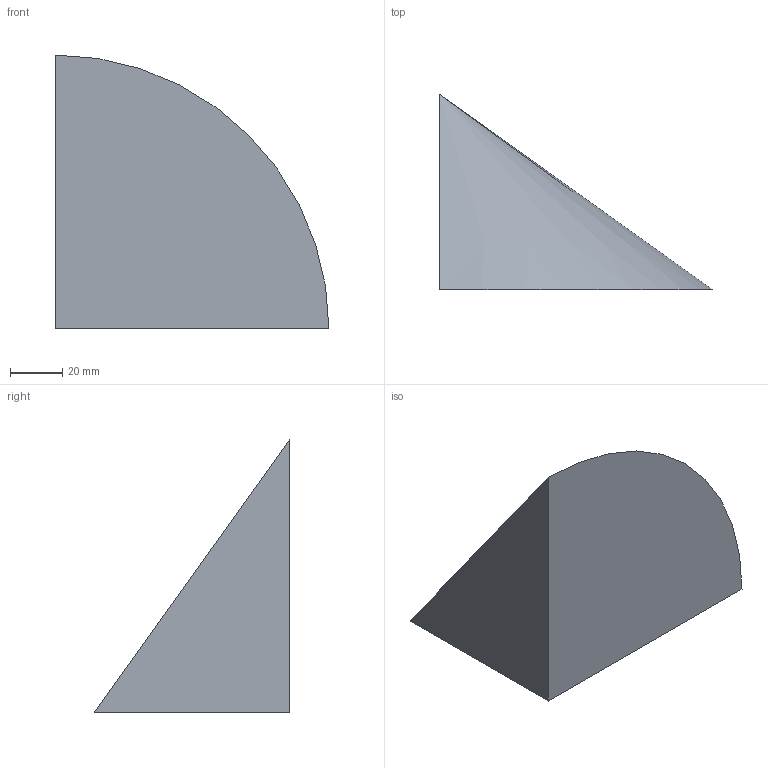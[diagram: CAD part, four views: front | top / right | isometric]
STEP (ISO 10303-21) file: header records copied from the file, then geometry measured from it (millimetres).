
FILE_DESCRIPTION(('CATIA V5 STEP Exchange'),'2;1');
FILE_NAME('C:\_Andres\UNIVERSIDAD\IQS\ASIGNATURAS\DAO\EXF\EXF-16172c\2inicio\Bosch_Dalmau_Ej07_v5.stp','2017-03-05T21:18:11+00:00',('none'),('none'),'CATIA Version 5-6 Release 2014 SP1 HF18','CATIA V5 STEP AP203','none');
FILE_SCHEMA(('CONFIG_CONTROL_DESIGN'));
Length unit declared in the file: millimetre
Products named in the file (1): Bosch_Dalmau_Ej07_v5
Bounding box: 105 x 75 x 105 mm (x, y, z)
Volume: 216475.4 mm3; surface area: 27175.1 mm2
Topology: 1 solids, 1 shells, 4 faces, 7 edges, 4 vertices
Faces by surface type: plane 3, cone 1
Entity records: 131 total; most frequent: CARTESIAN_POINT 15, DIRECTION 14, ORIENTED_EDGE 12, AXIS2_PLACEMENT_3D 6, EDGE_CURVE 6, VECTOR 5, LINE 5, ADVANCED_FACE 4
